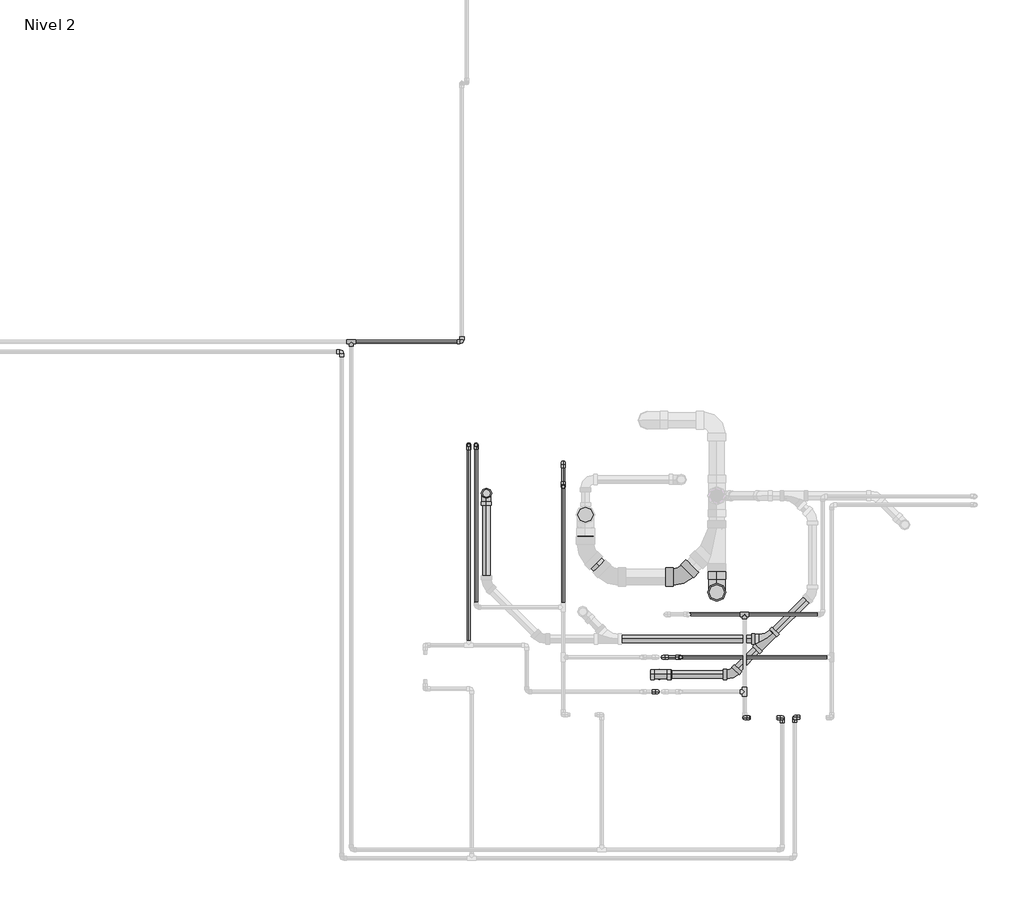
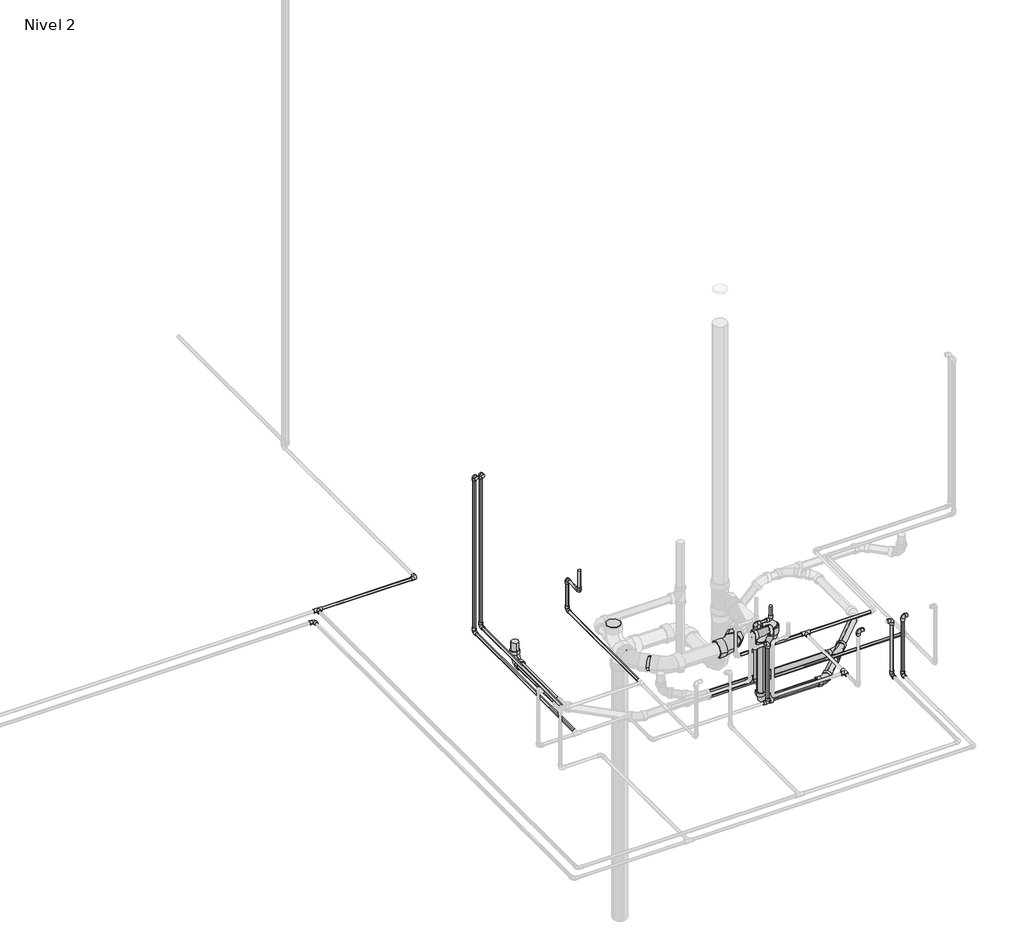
# One storey, part 3 of 9: 31 pipe segments, 29 pipe fittings.
"""IFC4 building model written with IfcOpenShell, lengths in millimetres."""

from ifc_helpers import new_model, si_unit, point, frame, frame_2d, origin, place, context, project, spatial, circle_curve, trimmed, segment, composite_curve, outline, extrude, transform, mapped, element, save
from components import pipe_fitting_ab418b84, pipe_fitting_0163322b, pipe_fitting_6ef1482d, m_codo_pvc_serie_40_9ad74631, m_codo_pvc_serie_40_ba05d404, m_codo_pvc_serie_40_dwv1_5c0ec739, m_codo_pvc_serie_40_dwv1_f5c0a64d, m_codo_pvc_serie_40_dwv1_9a7ca077, m_codo_pvc_serie_40_dwv1_6f1a2495

model = new_model("IFC4")

# Units and contexts
model_context = context("Model", 3, world=origin())
ifc_project = project(units=[si_unit("LENGTHUNIT", "METRE", prefix="MILLI")], contexts=[model_context])

# Site, building, storey
site = spatial("IfcSite", under=ifc_project)
building = spatial("IfcBuilding", under=site)
storey = spatial("IfcBuildingStorey", under=building, Name="Nivel 2", Elevation=2800.0)

# Pipe fittings
placement = place(None, origin())
pipe_fitting_shape = pipe_fitting_ab418b84(model_context)
element("IfcPipeFitting", 1, ObjectType="M_Te - PVC - Serie 40 : Estándar", at=placement, inside=storey, context=model_context, shape_type="MappedRepresentation", body=[
    mapped(pipe_fitting_shape, transform((4915.0072403, 7617.0181394, 2750.0), x_axis=(1.0, 0.0, 0.0), y_axis=(0.0, 1.0, 0.0), z_axis=(0.0, 0.0, 1.0))),
])
element("IfcPipeFitting", 2, ObjectType="M_Te - PVC - Serie 40 : Estándar", at=placement, inside=storey, context=model_context, shape_type="MappedRepresentation", body=[
    mapped(pipe_fitting_shape, transform((7622.9224126, 5206.6215833, 2750.0), x_axis=(0.0, 1.0, 0.0), y_axis=(1.0, 0.0, 0.0), z_axis=(0.0, 0.0, -1.0))),
])
element("IfcPipeFitting", 3, ObjectType="M_Te - PVC - Serie 40 : Estándar", at=placement, inside=storey, context=model_context, shape_type="MappedRepresentation", body=[
    mapped(pipe_fitting_shape, transform((7622.9224126, 5738.1215351, 2750.0), x_axis=(1.0, 0.0, 0.0), y_axis=(0.0, 1.0, 0.0), z_axis=(0.0, 0.0, 1.0))),
])
pipe_fitting_2_shape = pipe_fitting_0163322b(model_context)
element("IfcPipeFitting", 4, ObjectType="M_Sanitario con te de reducción - PVC - Serie 40 - DWV : Estándar", at=placement, inside=storey, context=model_context, shape_type="MappedRepresentation", body=[
    mapped(pipe_fitting_2_shape, transform((7780.3477467, 5569.8260974, 2650.0), x_axis=(-0.707106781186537, -0.7071067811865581, 0.0), y_axis=(0.7071067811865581, -0.707106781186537, 0.0), z_axis=(0.0, 0.0, 1.0))),
])
pipe_fitting_3_shape = pipe_fitting_6ef1482d(model_context)
element("IfcPipeFitting", 5, ObjectType="M_Sanitario con te de reducción - PVC - Serie 40 - DWV : Estándar", at=placement, inside=storey, context=model_context, shape_type="MappedRepresentation", body=[
    mapped(pipe_fitting_3_shape, transform((7035.5216492, 5325.0, 3210.6716548), x_axis=(-1.0, 0.0, 0.0), y_axis=(0.0, 0.0, 1.0), z_axis=(0.0, 1.0, 0.0))),
])
m_codo_pvc_serie_40_shape = m_codo_pvc_serie_40_9ad74631(model_context)
element("IfcPipeFitting", 6, ObjectType="M_Codo - PVC - Serie 40 : Estándar", at=placement, inside=storey, context=model_context, shape_type="MappedRepresentation", body=[
    mapped(m_codo_pvc_serie_40_shape, transform((6373.4849581, 6618.6807861, 3000.0), x_axis=(0.0, 0.0, -1.0), y_axis=(0.0, 1.0, 0.0), z_axis=(1.0, 0.0, 0.0))),
])
element("IfcPipeFitting", 7, ObjectType="M_Codo - PVC - Serie 40 : Estándar", at=placement, inside=storey, context=model_context, shape_type="MappedRepresentation", body=[
    mapped(m_codo_pvc_serie_40_shape, transform((6373.4849581, 6783.6807861, 3000.0), x_axis=(0.0, 1.0, 0.0), y_axis=(0.0, 0.0, -1.0), z_axis=(-1.0, 0.0, 0.0))),
])
element("IfcPipeFitting", 8, ObjectType="M_Codo - PVC - Serie 40 : Estándar", at=placement, inside=storey, context=model_context, shape_type="MappedRepresentation", body=[
    mapped(m_codo_pvc_serie_40_shape, transform((5676.6630441, 7617.0181394, 2750.0), x_axis=(1.0, 0.0, 0.0), y_axis=(0.0, 1.0, 0.0), z_axis=(0.0, 0.0, 1.0))),
])
element("IfcPipeFitting", 9, ObjectType="M_Codo - PVC - Serie 40 : Estándar", at=placement, inside=storey, context=model_context, shape_type="MappedRepresentation", body=[
    mapped(m_codo_pvc_serie_40_shape, transform((6373.4849581, 6783.6807861, 2750.0), x_axis=(0.0, 0.0, -1.0), y_axis=(0.0, -1.0, 0.0), z_axis=(-1.0, 0.0, 0.0))),
])
element("IfcPipeFitting", 10, ObjectType="M_Codo - PVC - Serie 40 : Estándar", at=placement, inside=storey, context=model_context, shape_type="MappedRepresentation", body=[
    mapped(m_codo_pvc_serie_40_shape, transform((7622.9224126, 5026.6215833, 3200.0), x_axis=(0.0, 0.0, 1.0), y_axis=(1.0, 0.0, 0.0), z_axis=(0.0, 1.0, 0.0))),
])
element("IfcPipeFitting", 11, ObjectType="M_Codo - PVC - Serie 40 : Estándar", at=placement, inside=storey, context=model_context, shape_type="MappedRepresentation", body=[
    mapped(m_codo_pvc_serie_40_shape, transform((7882.9224126, 5026.6215833, 3200.0), x_axis=(1.0, 0.0, 0.0), y_axis=(0.0, 0.0, -1.0), z_axis=(0.0, 1.0, 0.0))),
])
element("IfcPipeFitting", 12, ObjectType="M_Codo - PVC - Serie 40 : Estándar", at=placement, inside=storey, context=model_context, shape_type="MappedRepresentation", body=[
    mapped(m_codo_pvc_serie_40_shape, transform((7882.9224126, 5026.6215833, 2750.0), x_axis=(0.0, 0.0, -1.0), y_axis=(0.0, -1.0, 0.0), z_axis=(-1.0, 0.0, 0.0))),
])
element("IfcPipeFitting", 13, ObjectType="M_Codo - PVC - Serie 40 : Estándar", at=placement, inside=storey, context=model_context, shape_type="MappedRepresentation", body=[
    mapped(m_codo_pvc_serie_40_shape, transform((5773.4849581, 6908.5620607, 2750.0), x_axis=(0.0, 1.0, 0.0), y_axis=(0.0, 0.0, 1.0), z_axis=(1.0, 0.0, 0.0))),
])
element("IfcPipeFitting", 14, ObjectType="M_Codo - PVC - Serie 40 : Estándar", at=placement, inside=storey, context=model_context, shape_type="MappedRepresentation", body=[
    mapped(m_codo_pvc_serie_40_shape, transform((5773.4849581, 6908.5620607, 4000.0), x_axis=(0.0, 0.0, 1.0), y_axis=(0.0, -1.0, 0.0), z_axis=(1.0, 0.0, 0.0))),
])
element("IfcPipeFitting", 15, ObjectType="M_Codo - PVC - Serie 40 : Estándar", at=placement, inside=storey, context=model_context, shape_type="MappedRepresentation", body=[
    mapped(m_codo_pvc_serie_40_shape, transform((4848.2736664, 7548.5261191, 2720.0), x_axis=(0.0, 1.0, 0.0), y_axis=(-1.0, 0.0, 0.0), z_axis=(0.0, 0.0, 1.0))),
])
element("IfcPipeFitting", 16, ObjectType="M_Codo - PVC - Serie 40 : Estándar", at=placement, inside=storey, context=model_context, shape_type="MappedRepresentation", body=[
    mapped(m_codo_pvc_serie_40_shape, transform((7968.2736664, 5028.5261191, 2720.0), x_axis=(0.0, 1.0, 0.0), y_axis=(0.0, 0.0, 1.0), z_axis=(1.0, 0.0, 0.0))),
])
element("IfcPipeFitting", 17, ObjectType="M_Codo - PVC - Serie 40 : Estándar", at=placement, inside=storey, context=model_context, shape_type="MappedRepresentation", body=[
    mapped(m_codo_pvc_serie_40_shape, transform((7968.2736664, 5028.5261191, 3200.0), x_axis=(0.0, 0.0, 1.0), y_axis=(1.0, 0.0, 0.0), z_axis=(0.0, 1.0, 0.0))),
])
element("IfcPipeFitting", 18, ObjectType="M_Codo - PVC - Serie 40 : Estándar", at=placement, inside=storey, context=model_context, shape_type="MappedRepresentation", body=[
    mapped(m_codo_pvc_serie_40_shape, transform((7062.9224126, 5443.3784167, 2720.0), x_axis=(0.0, 0.0, -1.0), y_axis=(1.0, 0.0, 0.0), z_axis=(0.0, -1.0, 0.0))),
])
element("IfcPipeFitting", 19, ObjectType="M_Codo - PVC - Serie 40 : Estándar", at=placement, inside=storey, context=model_context, shape_type="MappedRepresentation", body=[
    mapped(m_codo_pvc_serie_40_shape, transform((5723.2442783, 6907.8715833, 2720.0), x_axis=(0.0, 1.0, 0.0), y_axis=(0.0, 0.0, 1.0), z_axis=(1.0, 0.0, 0.0))),
])
element("IfcPipeFitting", 20, ObjectType="M_Codo - PVC - Serie 40 : Estándar", at=placement, inside=storey, context=model_context, shape_type="MappedRepresentation", body=[
    mapped(m_codo_pvc_serie_40_shape, transform((5723.2442783, 6907.8715833, 4000.0), x_axis=(0.0, 0.0, 1.0), y_axis=(0.0, -1.0, 0.0), z_axis=(1.0, 0.0, 0.0))),
])
m_codo_pvc_serie_40_2_shape = m_codo_pvc_serie_40_ba05d404(model_context)
element("IfcPipeFitting", 21, ObjectType="M_Codo - PVC - Serie 40 : Estándar", at=placement, inside=storey, context=model_context, shape_type="MappedRepresentation", body=[
    mapped(m_codo_pvc_serie_40_2_shape, transform((7022.0365713, 5206.6215833, 3200.0), x_axis=(1.0, 0.0, 0.0), y_axis=(0.0, 0.0, 1.0), z_axis=(0.0, -1.0, 0.0))),
])
element("IfcPipeFitting", 22, ObjectType="M_Codo - PVC - Serie 40 : Estándar", at=placement, inside=storey, context=model_context, shape_type="MappedRepresentation", body=[
    mapped(m_codo_pvc_serie_40_2_shape, transform((7022.0365713, 5206.6215833, 2720.0), x_axis=(0.0, 0.0, -1.0), y_axis=(1.0, 0.0, 0.0), z_axis=(0.0, -1.0, 0.0))),
])
element("IfcPipeFitting", 23, ObjectType="M_Codo - PVC - Serie 40 : Estándar", at=placement, inside=storey, context=model_context, shape_type="MappedRepresentation", body=[
    mapped(m_codo_pvc_serie_40_2_shape, transform((7182.9224126, 5443.3784167, 3200.0), x_axis=(0.0, 0.0, -1.0), y_axis=(1.0, 0.0, 0.0), z_axis=(0.0, -1.0, 0.0))),
])
element("IfcPipeFitting", 24, ObjectType="M_Codo - PVC - Serie 40 : Estándar", at=placement, inside=storey, context=model_context, shape_type="MappedRepresentation", body=[
    mapped(m_codo_pvc_serie_40_2_shape, transform((7062.9224126, 5443.3784167, 3200.0), x_axis=(-1.0, 0.0, 0.0), y_axis=(0.0, 0.0, 1.0), z_axis=(0.0, 1.0, 0.0))),
])
m_codo_pvc_serie_40_dwv1_shape = m_codo_pvc_serie_40_dwv1_5c0ec739(model_context)
element("IfcPipeFitting", 25, ObjectType="M_Codo - PVC - Serie 40 - DWV1 : Estándar 2", at=placement, inside=storey, context=model_context, shape_type="MappedRepresentation", body=[
    mapped(m_codo_pvc_serie_40_dwv1_shape, transform((7035.5216492, 5325.0, 2650.0), x_axis=(0.0, 0.0, -1.0), y_axis=(1.0, 0.0, 0.0), z_axis=(0.0, -1.0, 0.0))),
])
element("IfcPipeFitting", 26, ObjectType="M_Codo - PVC - Serie 40 - DWV1 : Estándar 2", at=placement, inside=storey, context=model_context, shape_type="MappedRepresentation", body=[
    mapped(m_codo_pvc_serie_40_dwv1_shape, transform((5845.3355737, 6572.9803974, 2650.0), x_axis=(0.0, 1.0, 0.0), y_axis=(0.0, 0.0, 1.0), z_axis=(1.0, 0.0, 0.0))),
])
m_codo_pvc_serie_40_dwv1_2_shape = m_codo_pvc_serie_40_dwv1_f5c0a64d(model_context)
element("IfcPipeFitting", 27, ObjectType="M_Codo - PVC - Serie 40 - DWV1 : Estándar 2", at=placement, inside=storey, context=model_context, shape_type="MappedRepresentation", body=[
    mapped(m_codo_pvc_serie_40_dwv1_2_shape, transform((7432.3176766, 5891.6039726, 2650.0), x_axis=(0.0, 0.0, -1.0), y_axis=(0.0, 1.0, 0.0), z_axis=(1.0, 0.0, 0.0))),
])
m_codo_pvc_serie_40_dwv1_3_shape = m_codo_pvc_serie_40_dwv1_9a7ca077(model_context)
element("IfcPipeFitting", 28, ObjectType="M_Codo - PVC - Serie 40 - DWV1 : Estándar 2", at=placement, inside=storey, context=model_context, shape_type="MappedRepresentation", body=[
    mapped(m_codo_pvc_serie_40_dwv1_3_shape, transform((7188.0943794, 5996.1455314, 2650.0), x_axis=(1.0, 0.0, 0.0), y_axis=(0.0, 1.0, 0.0), z_axis=(0.0, 0.0, 1.0))),
])
m_codo_pvc_serie_40_dwv1_4_shape = m_codo_pvc_serie_40_dwv1_6f1a2495(model_context)
element("IfcPipeFitting", 29, ObjectType="M_Codo - PVC - Serie 40 - DWV1 : Estándar 2", at=placement, inside=storey, context=model_context, shape_type="MappedRepresentation", body=[
    mapped(m_codo_pvc_serie_40_dwv1_4_shape, transform((7535.5216492, 5325.0, 2650.0), x_axis=(1.0, 0.0, 0.0), y_axis=(0.0, 1.0, 0.0), z_axis=(0.0, 0.0, 1.0))),
])

# Pipe segments
element("IfcPipeSegment", 30, ObjectType="Tuberia PVC Agua Fria", at=placement, inside=storey, context=model_context, shape_type="SweptSolid", body=[
    extrude(outline(composite_curve([segment(trimmed(circle_curve(frame_2d((3000.0, 6373.4849581)), 10.31875), [point((3000.0, 6383.8037081))], [point((3010.31875, 6373.4849581))], False, "CARTESIAN"), True, "CONTINUOUS"), segment(trimmed(circle_curve(frame_2d((3000.0, 6373.4849581)), 10.31875), [point((3010.31875, 6373.4849581))], [point((3000.0, 6363.1662081))], False, "CARTESIAN"), True, "CONTINUOUS"), segment(trimmed(circle_curve(frame_2d((3000.0, 6373.4849581)), 10.31875), [point((3000.0, 6363.1662081))], [point((2989.68125, 6373.4849581))], False, "CARTESIAN"), True, "CONTINUOUS"), segment(trimmed(circle_curve(frame_2d((3000.0, 6373.4849581)), 10.31875), [point((2989.68125, 6373.4849581))], [point((3000.0, 6383.8037081))], False, "CARTESIAN"), True, "CONTINUOUS")], self_intersect=False)), frame((0.0, 6652.0817861, 0.0), z_axis=(0.0, 1.0, 0.0), x_axis=(0.0, 0.0, 1.0)), (0.0, 0.0, 1.0), 98.198),
])
element("IfcPipeSegment", 31, ObjectType="Tuberia PVC Agua Fria", at=placement, inside=storey, context=model_context, shape_type="SweptSolid", body=[
    extrude(outline(composite_curve([segment(trimmed(circle_curve(frame_2d((6373.4849581, 6618.6807861)), 10.31875), [point((6383.8037081, 6618.6807861))], [point((6373.4849581, 6608.3620361))], False, "CARTESIAN"), True, "CONTINUOUS"), segment(trimmed(circle_curve(frame_2d((6373.4849581, 6618.6807861)), 10.31875), [point((6373.4849581, 6608.3620361))], [point((6363.1662081, 6618.6807861))], False, "CARTESIAN"), True, "CONTINUOUS"), segment(trimmed(circle_curve(frame_2d((6373.4849581, 6618.6807861)), 10.31875), [point((6363.1662081, 6618.6807861))], [point((6373.4849581, 6628.9995361))], False, "CARTESIAN"), True, "CONTINUOUS"), segment(trimmed(circle_curve(frame_2d((6373.4849581, 6618.6807861)), 10.31875), [point((6373.4849581, 6628.9995361))], [point((6383.8037081, 6618.6807861))], False, "CARTESIAN"), True, "CONTINUOUS")], self_intersect=False)), frame((0.0, 0.0, 3033.401), z_axis=(0.0, 0.0, 1.0), x_axis=(1.0, 0.0, 0.0)), (0.0, 0.0, 1.0), 139.7562509),
])
element("IfcPipeSegment", 32, ObjectType="Tuberia PVC Agua Fria", at=placement, inside=storey, context=model_context, shape_type="SweptSolid", body=[
    extrude(outline(composite_curve([segment(trimmed(circle_curve(frame_2d((6373.4849581, 6783.6807861)), 10.31875), [point((6383.8037081, 6783.6807861))], [point((6373.4849581, 6773.3620361))], False, "CARTESIAN"), True, "CONTINUOUS"), segment(trimmed(circle_curve(frame_2d((6373.4849581, 6783.6807861)), 10.31875), [point((6373.4849581, 6773.3620361))], [point((6363.1662081, 6783.6807861))], False, "CARTESIAN"), True, "CONTINUOUS"), segment(trimmed(circle_curve(frame_2d((6373.4849581, 6783.6807861)), 10.31875), [point((6363.1662081, 6783.6807861))], [point((6373.4849581, 6793.9995361))], False, "CARTESIAN"), True, "CONTINUOUS"), segment(trimmed(circle_curve(frame_2d((6373.4849581, 6783.6807861)), 10.31875), [point((6373.4849581, 6793.9995361))], [point((6383.8037081, 6783.6807861))], False, "CARTESIAN"), True, "CONTINUOUS")], self_intersect=False)), frame((0.0, 0.0, 2783.401), z_axis=(0.0, 0.0, 1.0), x_axis=(1.0, 0.0, 0.0)), (0.0, 0.0, 1.0), 183.198),
])
element("IfcPipeSegment", 33, ObjectType="Tuberia PVC Agua Fria", at=placement, inside=storey, context=model_context, shape_type="SweptSolid", body=[
    extrude(outline(composite_curve([segment(trimmed(circle_curve(frame_2d((7617.0181394, 2750.0)), 10.31875), [point((7627.3368894, 2750.0))], [point((7617.0181394, 2739.68125))], False, "CARTESIAN"), True, "CONTINUOUS"), segment(trimmed(circle_curve(frame_2d((7617.0181394, 2750.0)), 10.31875), [point((7617.0181394, 2739.68125))], [point((7606.6993894, 2750.0))], False, "CARTESIAN"), True, "CONTINUOUS"), segment(trimmed(circle_curve(frame_2d((7617.0181394, 2750.0)), 10.31875), [point((7606.6993894, 2750.0))], [point((7617.0181394, 2760.31875))], False, "CARTESIAN"), True, "CONTINUOUS"), segment(trimmed(circle_curve(frame_2d((7617.0181394, 2750.0)), 10.31875), [point((7617.0181394, 2760.31875))], [point((7627.3368894, 2750.0))], False, "CARTESIAN"), True, "CONTINUOUS")], self_intersect=False)), frame((4945.4673966, 0.0, 0.0), z_axis=(1.0, 0.0, 0.0), x_axis=(0.0, 1.0, 0.0)), (0.0, 0.0, 1.0), 697.7946475),
])
element("IfcPipeSegment", 34, ObjectType="Tuberia PVC Agua Fria", at=placement, inside=storey, context=model_context, shape_type="SweptSolid", body=[
    extrude(outline(composite_curve([segment(trimmed(circle_curve(frame_2d((2750.0, 6373.4849581)), 10.31875), [point((2750.0, 6383.8037081))], [point((2760.31875, 6373.4849581))], False, "CARTESIAN"), True, "CONTINUOUS"), segment(trimmed(circle_curve(frame_2d((2750.0, 6373.4849581)), 10.31875), [point((2760.31875, 6373.4849581))], [point((2750.0, 6363.1662081))], False, "CARTESIAN"), True, "CONTINUOUS"), segment(trimmed(circle_curve(frame_2d((2750.0, 6373.4849581)), 10.31875), [point((2750.0, 6363.1662081))], [point((2739.68125, 6373.4849581))], False, "CARTESIAN"), True, "CONTINUOUS"), segment(trimmed(circle_curve(frame_2d((2750.0, 6373.4849581)), 10.31875), [point((2739.68125, 6373.4849581))], [point((2750.0, 6383.8037081))], False, "CARTESIAN"), True, "CONTINUOUS")], self_intersect=False)), frame((0.0, 5819.0222169, 0.0), z_axis=(0.0, 1.0, 0.0), x_axis=(0.0, 0.0, 1.0)), (0.0, 0.0, 1.0), 931.2575692),
])
element("IfcPipeSegment", 35, ObjectType="Tuberia PVC Agua Fria", at=placement, inside=storey, context=model_context, shape_type="SweptSolid", body=[
    extrude(outline(composite_curve([segment(trimmed(circle_curve(frame_2d((7882.9224126, 5026.6215833)), 10.31875), [point((7893.2411626, 5026.6215833))], [point((7882.9224126, 5016.3028333))], False, "CARTESIAN"), True, "CONTINUOUS"), segment(trimmed(circle_curve(frame_2d((7882.9224126, 5026.6215833)), 10.31875), [point((7882.9224126, 5016.3028333))], [point((7872.6036626, 5026.6215833))], False, "CARTESIAN"), True, "CONTINUOUS"), segment(trimmed(circle_curve(frame_2d((7882.9224126, 5026.6215833)), 10.31875), [point((7872.6036626, 5026.6215833))], [point((7882.9224126, 5036.9403333))], False, "CARTESIAN"), True, "CONTINUOUS"), segment(trimmed(circle_curve(frame_2d((7882.9224126, 5026.6215833)), 10.31875), [point((7882.9224126, 5036.9403333))], [point((7893.2411626, 5026.6215833))], False, "CARTESIAN"), True, "CONTINUOUS")], self_intersect=False)), frame((0.0, 0.0, 2783.401), z_axis=(0.0, 0.0, 1.0), x_axis=(1.0, 0.0, 0.0)), (0.0, 0.0, 1.0), 383.198),
])
element("IfcPipeSegment", 36, ObjectType="Tuberia PVC Agua Fria", at=placement, inside=storey, context=model_context, shape_type="SweptSolid", body=[
    extrude(outline(composite_curve([segment(trimmed(circle_curve(frame_2d((2750.0, 5773.4849581)), 10.31875), [point((2750.0, 5783.8037081))], [point((2760.31875, 5773.4849581))], False, "CARTESIAN"), True, "CONTINUOUS"), segment(trimmed(circle_curve(frame_2d((2750.0, 5773.4849581)), 10.31875), [point((2760.31875, 5773.4849581))], [point((2750.0, 5763.1662081))], False, "CARTESIAN"), True, "CONTINUOUS"), segment(trimmed(circle_curve(frame_2d((2750.0, 5773.4849581)), 10.31875), [point((2750.0, 5763.1662081))], [point((2739.68125, 5773.4849581))], False, "CARTESIAN"), True, "CONTINUOUS"), segment(trimmed(circle_curve(frame_2d((2750.0, 5773.4849581)), 10.31875), [point((2739.68125, 5773.4849581))], [point((2750.0, 5783.8037081))], False, "CARTESIAN"), True, "CONTINUOUS")], self_intersect=False)), frame((0.0, 5821.9630607, 0.0), z_axis=(0.0, 1.0, 0.0), x_axis=(0.0, 0.0, 1.0)), (0.0, 0.0, 1.0), 1053.198),
])
element("IfcPipeSegment", 37, ObjectType="Tuberia PVC Agua Fria", at=placement, inside=storey, context=model_context, shape_type="SweptSolid", body=[
    extrude(outline(composite_curve([segment(trimmed(circle_curve(frame_2d((5773.4849581, 6908.5620607)), 10.31875), [point((5763.1662081, 6908.5620607))], [point((5773.4849581, 6918.8808107))], False, "CARTESIAN"), True, "CONTINUOUS"), segment(trimmed(circle_curve(frame_2d((5773.4849581, 6908.5620607)), 10.31875), [point((5773.4849581, 6918.8808107))], [point((5783.8037081, 6908.5620607))], False, "CARTESIAN"), True, "CONTINUOUS"), segment(trimmed(circle_curve(frame_2d((5773.4849581, 6908.5620607)), 10.31875), [point((5783.8037081, 6908.5620607))], [point((5773.4849581, 6898.2433107))], False, "CARTESIAN"), True, "CONTINUOUS"), segment(trimmed(circle_curve(frame_2d((5773.4849581, 6908.5620607)), 10.31875), [point((5773.4849581, 6898.2433107))], [point((5763.1662081, 6908.5620607))], False, "CARTESIAN"), True, "CONTINUOUS")], self_intersect=False)), frame((0.0, 0.0, 2783.401), z_axis=(0.0, 0.0, 1.0), x_axis=(1.0, 0.0, 0.0)), (0.0, 0.0, 1.0), 1183.198),
])
element("IfcPipeSegment", 38, ObjectType="Tuberia PVC Agua Fria", at=placement, inside=storey, context=model_context, shape_type="SweptSolid", body=[
    extrude(outline(composite_curve([segment(trimmed(circle_curve(frame_2d((5738.1215351, 2750.0)), 10.31875), [point((5748.4402851, 2750.0))], [point((5738.1215351, 2739.68125))], False, "CARTESIAN"), True, "CONTINUOUS"), segment(trimmed(circle_curve(frame_2d((5738.1215351, 2750.0)), 10.31875), [point((5738.1215351, 2739.68125))], [point((5727.8027851, 2750.0))], False, "CARTESIAN"), True, "CONTINUOUS"), segment(trimmed(circle_curve(frame_2d((5738.1215351, 2750.0)), 10.31875), [point((5727.8027851, 2750.0))], [point((5738.1215351, 2760.31875))], False, "CARTESIAN"), True, "CONTINUOUS"), segment(trimmed(circle_curve(frame_2d((5738.1215351, 2750.0)), 10.31875), [point((5738.1215351, 2760.31875))], [point((5748.4402851, 2750.0))], False, "CARTESIAN"), True, "CONTINUOUS")], self_intersect=False)), frame((7112.7418631, 0.0, 0.0), z_axis=(1.0, 0.0, 0.0), x_axis=(0.0, 1.0, 0.0)), (0.0, 0.0, 1.0), 479.7203933),
])
element("IfcPipeSegment", 39, ObjectType="Tuberia PVC Agua Fria", at=placement, inside=storey, context=model_context, shape_type="SweptSolid", body=[
    extrude(outline(composite_curve([segment(trimmed(circle_curve(frame_2d((5738.1215351, 2750.0)), 10.31875), [point((5748.4402851, 2750.0))], [point((5738.1215351, 2739.68125))], False, "CARTESIAN"), True, "CONTINUOUS"), segment(trimmed(circle_curve(frame_2d((5738.1215351, 2750.0)), 10.31875), [point((5738.1215351, 2739.68125))], [point((5727.8027851, 2750.0))], False, "CARTESIAN"), True, "CONTINUOUS"), segment(trimmed(circle_curve(frame_2d((5738.1215351, 2750.0)), 10.31875), [point((5727.8027851, 2750.0))], [point((5738.1215351, 2760.31875))], False, "CARTESIAN"), True, "CONTINUOUS"), segment(trimmed(circle_curve(frame_2d((5738.1215351, 2750.0)), 10.31875), [point((5738.1215351, 2760.31875))], [point((5748.4402851, 2750.0))], False, "CARTESIAN"), True, "CONTINUOUS")], self_intersect=False)), frame((7653.3825689, 0.0, 0.0), z_axis=(1.0, 0.0, 0.0), x_axis=(0.0, 1.0, 0.0)), (0.0, 0.0, 1.0), 473.9388792),
])
element("IfcPipeSegment", 40, ObjectType="Tuberia PVC Agua Fria", at=placement, inside=storey, context=model_context, shape_type="SweptSolid", body=[
    extrude(outline(composite_curve([segment(trimmed(circle_curve(frame_2d((5026.6215833, 3200.0)), 10.31875), [point((5016.3028333, 3200.0))], [point((5026.6215833, 3210.31875))], False, "CARTESIAN"), True, "CONTINUOUS"), segment(trimmed(circle_curve(frame_2d((5026.6215833, 3200.0)), 10.31875), [point((5026.6215833, 3210.31875))], [point((5036.9403333, 3200.0))], False, "CARTESIAN"), True, "CONTINUOUS"), segment(trimmed(circle_curve(frame_2d((5026.6215833, 3200.0)), 10.31875), [point((5036.9403333, 3200.0))], [point((5026.6215833, 3189.68125))], False, "CARTESIAN"), True, "CONTINUOUS"), segment(trimmed(circle_curve(frame_2d((5026.6215833, 3200.0)), 10.31875), [point((5026.6215833, 3189.68125))], [point((5016.3028333, 3200.0))], False, "CARTESIAN"), True, "CONTINUOUS")], self_intersect=False)), frame((7656.3234126, 0.0, 0.0), z_axis=(1.0, 0.0, 0.0), x_axis=(0.0, 1.0, 0.0)), (0.0, 0.0, 1.0), 7.599),
])
element("IfcPipeSegment", 41, ObjectType="Tuberia PVC Agua Caliente", at=placement, inside=storey, context=model_context, shape_type="SweptSolid", body=[
    extrude(outline(composite_curve([segment(trimmed(circle_curve(frame_2d((7968.2736664, 5028.5261191)), 10.31875), [point((7957.9549164, 5028.5261191))], [point((7968.2736664, 5038.8448691))], False, "CARTESIAN"), True, "CONTINUOUS"), segment(trimmed(circle_curve(frame_2d((7968.2736664, 5028.5261191)), 10.31875), [point((7968.2736664, 5038.8448691))], [point((7978.5924164, 5028.5261191))], False, "CARTESIAN"), True, "CONTINUOUS"), segment(trimmed(circle_curve(frame_2d((7968.2736664, 5028.5261191)), 10.31875), [point((7978.5924164, 5028.5261191))], [point((7968.2736664, 5018.2073691))], False, "CARTESIAN"), True, "CONTINUOUS"), segment(trimmed(circle_curve(frame_2d((7968.2736664, 5028.5261191)), 10.31875), [point((7968.2736664, 5018.2073691))], [point((7957.9549164, 5028.5261191))], False, "CARTESIAN"), True, "CONTINUOUS")], self_intersect=False)), frame((0.0, 0.0, 2753.401), z_axis=(0.0, 0.0, 1.0), x_axis=(1.0, 0.0, 0.0)), (0.0, 0.0, 1.0), 413.198),
])
element("IfcPipeSegment", 42, ObjectType="Tuberia PVC Agua Caliente", at=placement, inside=storey, context=model_context, shape_type="SweptSolid", body=[
    extrude(outline(composite_curve([segment(trimmed(circle_curve(frame_2d((7022.0365713, 5206.6215833)), 10.31875), [point((7032.3553213, 5206.6215833))], [point((7022.0365713, 5196.3028333))], False, "CARTESIAN"), True, "CONTINUOUS"), segment(trimmed(circle_curve(frame_2d((7022.0365713, 5206.6215833)), 10.31875), [point((7022.0365713, 5196.3028333))], [point((7011.7178213, 5206.6215833))], False, "CARTESIAN"), True, "CONTINUOUS"), segment(trimmed(circle_curve(frame_2d((7022.0365713, 5206.6215833)), 10.31875), [point((7011.7178213, 5206.6215833))], [point((7022.0365713, 5216.9403333))], False, "CARTESIAN"), True, "CONTINUOUS"), segment(trimmed(circle_curve(frame_2d((7022.0365713, 5206.6215833)), 10.31875), [point((7022.0365713, 5216.9403333))], [point((7032.3553213, 5206.6215833))], False, "CARTESIAN"), True, "CONTINUOUS")], self_intersect=False)), frame((0.0, 0.0, 2753.401), z_axis=(0.0, 0.0, 1.0), x_axis=(1.0, 0.0, 0.0)), (0.0, 0.0, 1.0), 413.198),
])
element("IfcPipeSegment", 43, ObjectType="Tuberia PVC Agua Caliente", at=placement, inside=storey, context=model_context, shape_type="SweptSolid", body=[
    extrude(outline(composite_curve([segment(trimmed(circle_curve(frame_2d((5443.3784167, 3200.0)), 10.31875), [point((5453.6971667, 3200.0))], [point((5443.3784167, 3189.68125))], False, "CARTESIAN"), True, "CONTINUOUS"), segment(trimmed(circle_curve(frame_2d((5443.3784167, 3200.0)), 10.31875), [point((5443.3784167, 3189.68125))], [point((5433.0596667, 3200.0))], False, "CARTESIAN"), True, "CONTINUOUS"), segment(trimmed(circle_curve(frame_2d((5443.3784167, 3200.0)), 10.31875), [point((5433.0596667, 3200.0))], [point((5443.3784167, 3210.31875))], False, "CARTESIAN"), True, "CONTINUOUS"), segment(trimmed(circle_curve(frame_2d((5443.3784167, 3200.0)), 10.31875), [point((5443.3784167, 3210.31875))], [point((5453.6971667, 3200.0))], False, "CARTESIAN"), True, "CONTINUOUS")], self_intersect=False)), frame((7096.3234126, 0.0, 0.0), z_axis=(1.0, 0.0, 0.0), x_axis=(0.0, 1.0, 0.0)), (0.0, 0.0, 1.0), 53.198),
])
element("IfcPipeSegment", 44, ObjectType="Tuberia PVC Agua Caliente", at=placement, inside=storey, context=model_context, shape_type="SweptSolid", body=[
    extrude(outline(composite_curve([segment(trimmed(circle_curve(frame_2d((7182.9224126, 5443.3784167)), 10.31875), [point((7193.2411626, 5443.3784167))], [point((7182.9224126, 5433.0596667))], False, "CARTESIAN"), True, "CONTINUOUS"), segment(trimmed(circle_curve(frame_2d((7182.9224126, 5443.3784167)), 10.31875), [point((7182.9224126, 5433.0596667))], [point((7172.6036626, 5443.3784167))], False, "CARTESIAN"), True, "CONTINUOUS"), segment(trimmed(circle_curve(frame_2d((7182.9224126, 5443.3784167)), 10.31875), [point((7172.6036626, 5443.3784167))], [point((7182.9224126, 5453.6971667))], False, "CARTESIAN"), True, "CONTINUOUS"), segment(trimmed(circle_curve(frame_2d((7182.9224126, 5443.3784167)), 10.31875), [point((7182.9224126, 5453.6971667))], [point((7193.2411626, 5443.3784167))], False, "CARTESIAN"), True, "CONTINUOUS")], self_intersect=False)), frame((0.0, 0.0, 3233.401), z_axis=(0.0, 0.0, 1.0), x_axis=(1.0, 0.0, 0.0)), (0.0, 0.0, 1.0), 74.0983614),
])
element("IfcPipeSegment", 45, ObjectType="Tuberia PVC Agua Caliente", at=placement, inside=storey, context=model_context, shape_type="SweptSolid", body=[
    extrude(outline(composite_curve([segment(trimmed(circle_curve(frame_2d((5443.3784167, 2720.0)), 10.31875), [point((5433.0596667, 2720.0))], [point((5443.3784167, 2730.31875))], False, "CARTESIAN"), True, "CONTINUOUS"), segment(trimmed(circle_curve(frame_2d((5443.3784167, 2720.0)), 10.31875), [point((5443.3784167, 2730.31875))], [point((5453.6971667, 2720.0))], False, "CARTESIAN"), True, "CONTINUOUS"), segment(trimmed(circle_curve(frame_2d((5443.3784167, 2720.0)), 10.31875), [point((5453.6971667, 2720.0))], [point((5443.3784167, 2709.68125))], False, "CARTESIAN"), True, "CONTINUOUS"), segment(trimmed(circle_curve(frame_2d((5443.3784167, 2720.0)), 10.31875), [point((5443.3784167, 2709.68125))], [point((5433.0596667, 2720.0))], False, "CARTESIAN"), True, "CONTINUOUS")], self_intersect=False)), frame((7096.3234126, 0.0, 0.0), z_axis=(1.0, 0.0, 0.0), x_axis=(0.0, 1.0, 0.0)), (0.0, 0.0, 1.0), 1096.4900975),
])
element("IfcPipeSegment", 46, ObjectType="Tuberia PVC Agua Caliente", at=placement, inside=storey, context=model_context, shape_type="SweptSolid", body=[
    extrude(outline(composite_curve([segment(trimmed(circle_curve(frame_2d((7062.9224126, 5443.3784167)), 10.31875), [point((7073.2411626, 5443.3784167))], [point((7062.9224126, 5433.0596667))], False, "CARTESIAN"), True, "CONTINUOUS"), segment(trimmed(circle_curve(frame_2d((7062.9224126, 5443.3784167)), 10.31875), [point((7062.9224126, 5433.0596667))], [point((7052.6036626, 5443.3784167))], False, "CARTESIAN"), True, "CONTINUOUS"), segment(trimmed(circle_curve(frame_2d((7062.9224126, 5443.3784167)), 10.31875), [point((7052.6036626, 5443.3784167))], [point((7062.9224126, 5453.6971667))], False, "CARTESIAN"), True, "CONTINUOUS"), segment(trimmed(circle_curve(frame_2d((7062.9224126, 5443.3784167)), 10.31875), [point((7062.9224126, 5453.6971667))], [point((7073.2411626, 5443.3784167))], False, "CARTESIAN"), True, "CONTINUOUS")], self_intersect=False)), frame((0.0, 0.0, 2753.401), z_axis=(0.0, 0.0, 1.0), x_axis=(1.0, 0.0, 0.0)), (0.0, 0.0, 1.0), 413.198),
])
element("IfcPipeSegment", 47, ObjectType="Tuberia PVC Agua Caliente", at=placement, inside=storey, context=model_context, shape_type="SweptSolid", body=[
    extrude(outline(composite_curve([segment(trimmed(circle_curve(frame_2d((2720.0, 5723.2442783)), 10.31875), [point((2720.0, 5733.5630283))], [point((2730.31875, 5723.2442783))], False, "CARTESIAN"), True, "CONTINUOUS"), segment(trimmed(circle_curve(frame_2d((2720.0, 5723.2442783)), 10.31875), [point((2730.31875, 5723.2442783))], [point((2720.0, 5712.9255283))], False, "CARTESIAN"), True, "CONTINUOUS"), segment(trimmed(circle_curve(frame_2d((2720.0, 5723.2442783)), 10.31875), [point((2720.0, 5712.9255283))], [point((2709.68125, 5723.2442783))], False, "CARTESIAN"), True, "CONTINUOUS"), segment(trimmed(circle_curve(frame_2d((2720.0, 5723.2442783)), 10.31875), [point((2709.68125, 5723.2442783))], [point((2720.0, 5733.5630283))], False, "CARTESIAN"), True, "CONTINUOUS")], self_intersect=False)), frame((0.0, 5557.0817396, 0.0), z_axis=(0.0, 1.0, 0.0), x_axis=(0.0, 0.0, 1.0)), (0.0, 0.0, 1.0), 1317.3888438),
])
element("IfcPipeSegment", 48, ObjectType="Tuberia PVC Agua Caliente", at=placement, inside=storey, context=model_context, shape_type="SweptSolid", body=[
    extrude(outline(composite_curve([segment(trimmed(circle_curve(frame_2d((5723.2442783, 6907.8715833)), 10.31875), [point((5712.9255283, 6907.8715833))], [point((5723.2442783, 6918.1903333))], False, "CARTESIAN"), True, "CONTINUOUS"), segment(trimmed(circle_curve(frame_2d((5723.2442783, 6907.8715833)), 10.31875), [point((5723.2442783, 6918.1903333))], [point((5733.5630283, 6907.8715833))], False, "CARTESIAN"), True, "CONTINUOUS"), segment(trimmed(circle_curve(frame_2d((5723.2442783, 6907.8715833)), 10.31875), [point((5733.5630283, 6907.8715833))], [point((5723.2442783, 6897.5528333))], False, "CARTESIAN"), True, "CONTINUOUS"), segment(trimmed(circle_curve(frame_2d((5723.2442783, 6907.8715833)), 10.31875), [point((5723.2442783, 6897.5528333))], [point((5712.9255283, 6907.8715833))], False, "CARTESIAN"), True, "CONTINUOUS")], self_intersect=False)), frame((0.0, 0.0, 2753.401), z_axis=(0.0, 0.0, 1.0), x_axis=(1.0, 0.0, 0.0)), (0.0, 0.0, 1.0), 1213.198),
])
element("IfcPipeSegment", 49, ObjectType="Tuberia PVC Sanitario", at=placement, inside=storey, context=model_context, shape_type="SweptSolid", body=[
    extrude(outline(composite_curve([segment(trimmed(circle_curve(frame_2d((6526.9673956, 6425.7039726)), 52.3875), [point((6579.3548956, 6425.7039726))], [point((6526.9673956, 6373.3164726))], False, "CARTESIAN"), True, "CONTINUOUS"), segment(trimmed(circle_curve(frame_2d((6526.9673956, 6425.7039726)), 52.3875), [point((6526.9673956, 6373.3164726))], [point((6474.5798956, 6425.7039726))], False, "CARTESIAN"), True, "CONTINUOUS"), segment(trimmed(circle_curve(frame_2d((6526.9673956, 6425.7039726)), 52.3875), [point((6474.5798956, 6425.7039726))], [point((6526.9673956, 6478.0914726))], False, "CARTESIAN"), True, "CONTINUOUS"), segment(trimmed(circle_curve(frame_2d((6526.9673956, 6425.7039726)), 52.3875), [point((6526.9673956, 6478.0914726))], [point((6579.3548956, 6425.7039726))], False, "CARTESIAN"), True, "CONTINUOUS")], self_intersect=False)), frame((0.0, 0.0, 2796.8159687), z_axis=(0.0, 0.0, 1.0), x_axis=(1.0, 0.0, 0.0)), (0.0, 0.0, 1.0), 3.1840313),
])
element("IfcPipeSegment", 50, ObjectType="Tuberia PVC Sanitario", at=placement, inside=storey, context=model_context, shape_type="SweptSolid", body=[
    extrude(outline(composite_curve([segment(trimmed(circle_curve(frame_2d((7432.3176766, 5891.6039726)), 52.3875), [point((7484.7051766, 5891.6039726))], [point((7432.3176766, 5839.2164726))], False, "CARTESIAN"), True, "CONTINUOUS"), segment(trimmed(circle_curve(frame_2d((7432.3176766, 5891.6039726)), 52.3875), [point((7432.3176766, 5839.2164726))], [point((7379.9301766, 5891.6039726))], False, "CARTESIAN"), True, "CONTINUOUS"), segment(trimmed(circle_curve(frame_2d((7432.3176766, 5891.6039726)), 52.3875), [point((7379.9301766, 5891.6039726))], [point((7432.3176766, 5943.9914726))], False, "CARTESIAN"), True, "CONTINUOUS"), segment(trimmed(circle_curve(frame_2d((7432.3176766, 5891.6039726)), 52.3875), [point((7432.3176766, 5943.9914726))], [point((7484.7051766, 5891.6039726))], False, "CARTESIAN"), True, "CONTINUOUS")], self_intersect=False)), frame((0.0, 0.0, 2791.4700625), z_axis=(0.0, 0.0, 1.0), x_axis=(1.0, 0.0, 0.0)), (0.0, 0.0, 1.0), 8.5299375),
])
element("IfcPipeSegment", 51, ObjectType="Tuberia PVC Sanitario", at=placement, inside=storey, context=model_context, shape_type="SweptSolid", body=[
    extrude(outline(composite_curve([segment(trimmed(circle_curve(frame_2d((5325.0, 3210.6716548)), 26.9875), [point((5351.9875, 3210.6716548))], [point((5325.0, 3183.6841548))], False, "CARTESIAN"), True, "CONTINUOUS"), segment(trimmed(circle_curve(frame_2d((5325.0, 3210.6716548)), 26.9875), [point((5325.0, 3183.6841548))], [point((5298.0125, 3210.6716548))], False, "CARTESIAN"), True, "CONTINUOUS"), segment(trimmed(circle_curve(frame_2d((5325.0, 3210.6716548)), 26.9875), [point((5298.0125, 3210.6716548))], [point((5325.0, 3237.6591548))], False, "CARTESIAN"), True, "CONTINUOUS"), segment(trimmed(circle_curve(frame_2d((5325.0, 3210.6716548)), 26.9875), [point((5325.0, 3237.6591548))], [point((5351.9875, 3210.6716548))], False, "CARTESIAN"), True, "CONTINUOUS")], self_intersect=False)), frame((7115.456116, 0.0, 0.0), z_axis=(1.0, 0.0, 0.0), x_axis=(0.0, 1.0, 0.0)), (0.0, 0.0, 1.0), 7.5655333),
])
element("IfcPipeSegment", 52, ObjectType="Tuberia PVC Sanitario", at=placement, inside=storey, context=model_context, shape_type="SweptSolid", body=[
    extrude(outline(composite_curve([segment(trimmed(circle_curve(frame_2d((5325.0, 2650.0)), 26.9875), [point((5298.0125, 2650.0))], [point((5325.0, 2676.9875))], False, "CARTESIAN"), True, "CONTINUOUS"), segment(trimmed(circle_curve(frame_2d((5325.0, 2650.0)), 26.9875), [point((5325.0, 2676.9875))], [point((5351.9875, 2650.0))], False, "CARTESIAN"), True, "CONTINUOUS"), segment(trimmed(circle_curve(frame_2d((5325.0, 2650.0)), 26.9875), [point((5351.9875, 2650.0))], [point((5325.0, 2623.0125))], False, "CARTESIAN"), True, "CONTINUOUS"), segment(trimmed(circle_curve(frame_2d((5325.0, 2650.0)), 26.9875), [point((5325.0, 2623.0125))], [point((5298.0125, 2650.0))], False, "CARTESIAN"), True, "CONTINUOUS")], self_intersect=False)), frame((7118.0637117, 0.0, 0.0), z_axis=(1.0, 0.0, 0.0), x_axis=(0.0, 1.0, 0.0)), (0.0, 0.0, 1.0), 357.02975),
])
element("IfcPipeSegment", 53, ObjectType="Tuberia PVC Sanitario", at=placement, inside=storey, context=model_context, shape_type="SweptSolid", body=[
    extrude(outline(composite_curve([segment(trimmed(circle_curve(frame_2d((7035.5216492, 5325.0)), 26.9875), [point((7062.5091492, 5325.0))], [point((7035.5216492, 5298.0125))], False, "CARTESIAN"), True, "CONTINUOUS"), segment(trimmed(circle_curve(frame_2d((7035.5216492, 5325.0)), 26.9875), [point((7035.5216492, 5298.0125))], [point((7008.5341492, 5325.0))], False, "CARTESIAN"), True, "CONTINUOUS"), segment(trimmed(circle_curve(frame_2d((7035.5216492, 5325.0)), 26.9875), [point((7008.5341492, 5325.0))], [point((7035.5216492, 5351.9875))], False, "CARTESIAN"), True, "CONTINUOUS"), segment(trimmed(circle_curve(frame_2d((7035.5216492, 5325.0)), 26.9875), [point((7035.5216492, 5351.9875))], [point((7062.5091492, 5325.0))], False, "CARTESIAN"), True, "CONTINUOUS")], self_intersect=False)), frame((0.0, 0.0, 2732.5420625), z_axis=(0.0, 0.0, 1.0), x_axis=(1.0, 0.0, 0.0)), (0.0, 0.0, 1.0), 396.3376235),
])
element("IfcPipeSegment", 54, ObjectType="Tuberia PVC Sanitario", at=placement, inside=storey, context=model_context, shape_type="SweptSolid", body=[
    extrude(outline(composite_curve([segment(trimmed(circle_curve(frame_2d((2650.0, 5845.3355737)), 26.9875), [point((2650.0, 5818.3480737))], [point((2623.0125, 5845.3355737))], False, "CARTESIAN"), True, "CONTINUOUS"), segment(trimmed(circle_curve(frame_2d((2650.0, 5845.3355737)), 26.9875), [point((2623.0125, 5845.3355737))], [point((2650.0, 5872.3230737))], False, "CARTESIAN"), True, "CONTINUOUS"), segment(trimmed(circle_curve(frame_2d((2650.0, 5845.3355737)), 26.9875), [point((2650.0, 5872.3230737))], [point((2676.9875, 5845.3355737))], False, "CARTESIAN"), True, "CONTINUOUS"), segment(trimmed(circle_curve(frame_2d((2650.0, 5845.3355737)), 26.9875), [point((2676.9875, 5845.3355737))], [point((2650.0, 5818.3480737))], False, "CARTESIAN"), True, "CONTINUOUS")], self_intersect=False)), frame((0.0, 6004.4564707, 0.0), z_axis=(0.0, 1.0, 0.0), x_axis=(0.0, 0.0, 1.0)), (0.0, 0.0, 1.0), 485.9818642),
])
element("IfcPipeSegment", 55, ObjectType="Tuberia PVC Sanitario", at=placement, inside=storey, context=model_context, shape_type="SweptSolid", body=[
    extrude(outline(composite_curve([segment(trimmed(circle_curve(frame_2d((2650.0, 6526.9673956)), 52.3875), [point((2650.0, 6474.5798956))], [point((2597.6125, 6526.9673956))], False, "CARTESIAN"), True, "CONTINUOUS"), segment(trimmed(circle_curve(frame_2d((2650.0, 6526.9673956)), 52.3875), [point((2597.6125, 6526.9673956))], [point((2650.0, 6579.3548956))], False, "CARTESIAN"), True, "CONTINUOUS"), segment(trimmed(circle_curve(frame_2d((2650.0, 6526.9673956)), 52.3875), [point((2650.0, 6579.3548956))], [point((2702.3875, 6526.9673956))], False, "CARTESIAN"), True, "CONTINUOUS"), segment(trimmed(circle_curve(frame_2d((2650.0, 6526.9673956)), 52.3875), [point((2702.3875, 6526.9673956))], [point((2650.0, 6474.5798956))], False, "CARTESIAN"), True, "CONTINUOUS")], self_intersect=False)), frame((0.0, 6272.8681601, 0.0), z_axis=(0.0, 1.0, 0.0), x_axis=(0.0, 0.0, 1.0)), (0.0, 0.0, 1.0), 8.9410978),
])
element("IfcPipeSegment", 56, ObjectType="Tuberia PVC Sanitario", at=placement, inside=storey, context=model_context, shape_type="SweptSolid", body=[
    extrude(outline(composite_curve([segment(trimmed(circle_curve(frame_2d((5845.3355737, 6572.9803974)), 26.9875), [point((5818.3480737, 6572.9803974))], [point((5845.3355737, 6599.9678974))], False, "CARTESIAN"), True, "CONTINUOUS"), segment(trimmed(circle_curve(frame_2d((5845.3355737, 6572.9803974)), 26.9875), [point((5845.3355737, 6599.9678974))], [point((5872.3230737, 6572.9803974))], False, "CARTESIAN"), True, "CONTINUOUS"), segment(trimmed(circle_curve(frame_2d((5845.3355737, 6572.9803974)), 26.9875), [point((5872.3230737, 6572.9803974))], [point((5845.3355737, 6545.9928974))], False, "CARTESIAN"), True, "CONTINUOUS"), segment(trimmed(circle_curve(frame_2d((5845.3355737, 6572.9803974)), 26.9875), [point((5845.3355737, 6545.9928974))], [point((5818.3480737, 6572.9803974))], False, "CARTESIAN"), True, "CONTINUOUS")], self_intersect=False)), frame((0.0, 0.0, 2732.5420625), z_axis=(0.0, 0.0, 1.0), x_axis=(1.0, 0.0, 0.0)), (0.0, 0.0, 1.0), 67.4579375),
])
element("IfcPipeSegment", 57, ObjectType="Tuberia PVC Sanitario", at=placement, inside=storey, context=model_context, shape_type="SweptSolid", body=[
    extrude(outline(composite_curve([segment(trimmed(circle_curve(frame_2d((0.0, -26.9875)), 26.9875), [point((-26.9875, -26.9875))], [point((0.0, 0.0))], False, "CARTESIAN"), True, "CONTINUOUS"), segment(trimmed(circle_curve(frame_2d((0.0, -26.9875)), 26.9875), [point((0.0, 0.0))], [point((26.9875001, -26.9875))], False, "CARTESIAN"), True, "CONTINUOUS"), segment(trimmed(circle_curve(frame_2d((0.0, -26.9875)), 26.9875), [point((26.9875001, -26.9875))], [point((0.0, -53.975))], False, "CARTESIAN"), True, "CONTINUOUS"), segment(trimmed(circle_curve(frame_2d((0.0, -26.9875)), 26.9875), [point((0.0, -53.975))], [point((-26.9875, -26.9875))], False, "CARTESIAN"), True, "CONTINUOUS")], self_intersect=False)), frame((7578.2508304, 5367.7291812, 2623.0125), z_axis=(0.7071067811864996, 0.7071067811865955, 0.0), x_axis=(0.7071067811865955, -0.7071067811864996, 0.0)), (0.0, 0.0, 1.0), 176.9705932),
])
element("IfcPipeSegment", 58, ObjectType="Tuberia PVC Sanitario", at=placement, inside=storey, context=model_context, shape_type="SweptSolid", body=[
    extrude(outline(composite_curve([segment(trimmed(circle_curve(frame_2d((5569.8260974, 2650.0)), 26.9875), [point((5542.8385974, 2650.0))], [point((5569.8260974, 2676.9875))], False, "CARTESIAN"), True, "CONTINUOUS"), segment(trimmed(circle_curve(frame_2d((5569.8260974, 2650.0)), 26.9875), [point((5569.8260974, 2676.9875))], [point((5596.8135974, 2650.0))], False, "CARTESIAN"), True, "CONTINUOUS"), segment(trimmed(circle_curve(frame_2d((5569.8260974, 2650.0)), 26.9875), [point((5596.8135974, 2650.0))], [point((5569.8260974, 2623.0125))], False, "CARTESIAN"), True, "CONTINUOUS"), segment(trimmed(circle_curve(frame_2d((5569.8260974, 2650.0)), 26.9875), [point((5569.8260974, 2623.0125))], [point((5542.8385974, 2650.0))], False, "CARTESIAN"), True, "CONTINUOUS")], self_intersect=False)), frame((6777.2924328, 0.0, 0.0), z_axis=(1.0, 0.0, 0.0), x_axis=(0.0, 1.0, 0.0)), (0.0, 0.0, 1.0), 894.2177072),
])
element("IfcPipeSegment", 59, ObjectType="Tuberia PVC Sanitario", at=placement, inside=storey, context=model_context, shape_type="SweptSolid", body=[
    extrude(outline(composite_curve([segment(trimmed(circle_curve(frame_2d((0.0, -26.9875)), 26.9875), [point((-26.9875, -26.9875))], [point((0.0, 0.0))], False, "CARTESIAN"), True, "CONTINUOUS"), segment(trimmed(circle_curve(frame_2d((0.0, -26.9875)), 26.9875), [point((0.0, 0.0))], [point((26.9875001, -26.9875))], False, "CARTESIAN"), True, "CONTINUOUS"), segment(trimmed(circle_curve(frame_2d((0.0, -26.9875)), 26.9875), [point((26.9875001, -26.9875))], [point((0.0, -53.975))], False, "CARTESIAN"), True, "CONTINUOUS"), segment(trimmed(circle_curve(frame_2d((0.0, -26.9875)), 26.9875), [point((0.0, -53.975))], [point((-26.9875, -26.9875))], False, "CARTESIAN"), True, "CONTINUOUS")], self_intersect=False)), frame((7836.8699501, 5626.3483009, 2623.0125), z_axis=(0.7071067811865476, 0.7071067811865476, 0.0), x_axis=(0.7071067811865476, -0.7071067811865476, 0.0)), (0.0, 0.0, 1.0), 298.9081564),
])
element("IfcPipeSegment", 60, ObjectType="Tuberia PVC Sanitario", at=placement, inside=storey, context=model_context, shape_type="SweptSolid", body=[
    extrude(outline(composite_curve([segment(trimmed(circle_curve(frame_2d((0.0, -52.3875)), 52.3875), [point((-52.3875, -52.3875))], [point((0.0, 0.0))], False, "CARTESIAN"), True, "CONTINUOUS"), segment(trimmed(circle_curve(frame_2d((0.0, -52.3875)), 52.3875), [point((0.0, 0.0))], [point((52.3875, -52.3875))], False, "CARTESIAN"), True, "CONTINUOUS"), segment(trimmed(circle_curve(frame_2d((0.0, -52.3875)), 52.3875), [point((52.3875, -52.3875))], [point((0.0, -104.775))], False, "CARTESIAN"), True, "CONTINUOUS"), segment(trimmed(circle_curve(frame_2d((0.0, -52.3875)), 52.3875), [point((0.0, -104.775))], [point((-52.3875, -52.3875))], False, "CARTESIAN"), True, "CONTINUOUS")], self_intersect=False)), frame((6620.7493132, 6071.9220551, 2597.6125), z_axis=(-0.7071067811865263, 0.7071067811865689, 0.0), x_axis=(0.7071067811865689, 0.7071067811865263, 0.0)), (0.0, 0.0, 1.0), 25.4634722),
])

save(model, "model.ifc")
